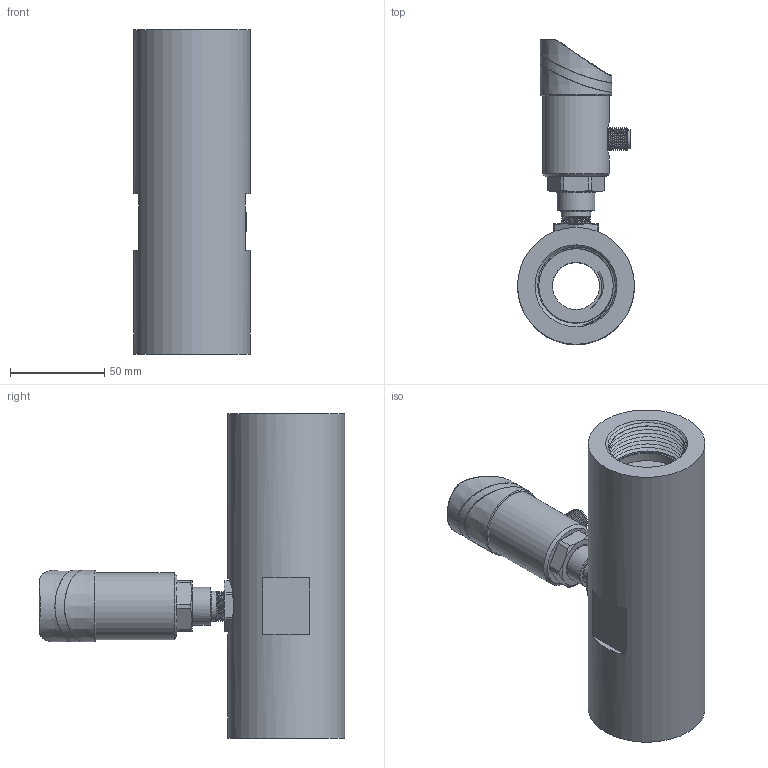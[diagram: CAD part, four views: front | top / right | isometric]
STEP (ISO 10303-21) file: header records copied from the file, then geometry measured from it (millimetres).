
FILE_DESCRIPTION( (''), '2;1');
FILE_NAME( 'QTKE_DN32_female-thread.step', '2024-10-15T10:18:28+08:00', (''), (''), '', '', '');
FILE_SCHEMA (('AUTOMOTIVE_DESIGN { 1 0 10303 214 3 1 1 1 }'));
Length unit declared in the file: millimetre
Products named in the file (1): QTKE DN32_female-thread
Bounding box: 62 x 162 x 172 mm (x, y, z)
Volume: 451762.6 mm3; surface area: 87044.9 mm2
Topology: 5 solids, 6 shells, 871 faces, 2294 edges, 1502 vertices
Faces by surface type: plane 409, extrusion 141, cylinder 132, bspline 76, cone 70, torus 32, sphere 11
Full cylindrical faces by diameter (mm): 1.689 x1, 2.7 x3, 12 x1, 15 x1, 15.9 x1, 16.5 x1, 20 x1, 23 x3, 25 x1, 26 x5, 35.5 x1, 37.001 x1, 39.5 x2, 62 x1
Entity records: 38725 total; most frequent: CARTESIAN_POINT 17088, ORIENTED_EDGE 4396, DIRECTION 3453, EDGE_CURVE 2198, VERTEX_POINT 1464, VECTOR 1357, LINE 1216, AXIS2_PLACEMENT_3D 1048
